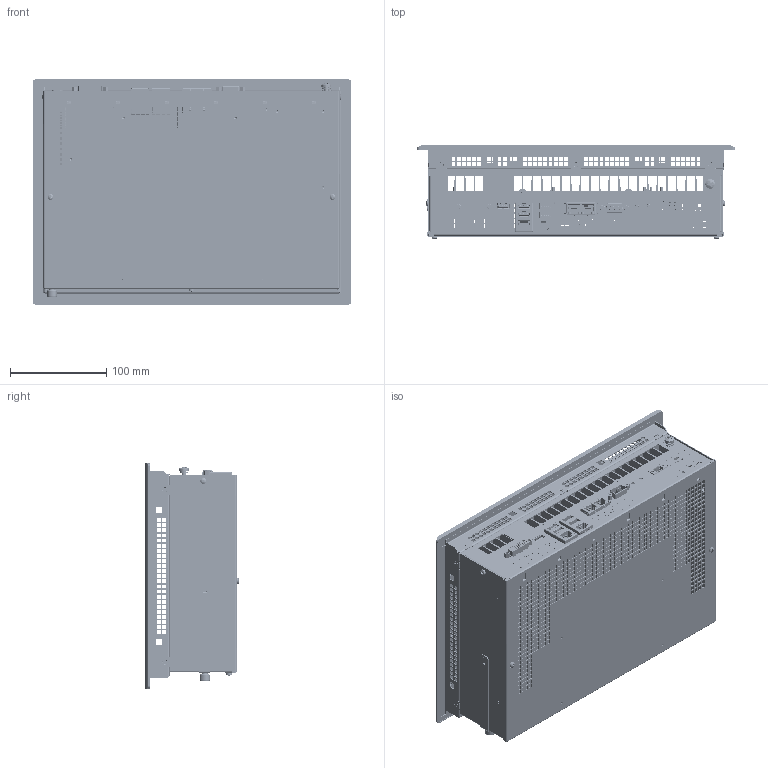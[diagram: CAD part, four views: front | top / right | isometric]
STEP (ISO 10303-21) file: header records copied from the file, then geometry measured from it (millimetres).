
FILE_DESCRIPTION (( 'STEP AP214' ), '1' );
FILE_NAME ('C6P34-Panel_121W_Res_S0.STEP', '2019-09-24T09:27:57', ( '' ), ( '' ), 'SwSTEP 2.0', 'SolidWorks 2018', '' );
FILE_SCHEMA (( 'AUTOMOTIVE_DESIGN' ));
Length unit declared in the file: millimetre
Products named in the file (140): 21509026; 21614000; 69111028; 21410052; 65720030; 21410046; 59702276; 66320015; 62920012; 23330039; 52912002; C6P34-Panel_121W_Res_S0; 66320016; 62920002; 52536147; 65720029; 58702102_Default<A macchina>; 57902481; 48000067; 56636638; 21409042; 58502116; piazzuola_de800_di370; 21410015; 21502089; 51524089; 7359_056; 21404036; 65720078; 66320001; 14300025; 59702276_Default<A macchina>; 21410056; 57936014; 7359_056_Depopolato; 7397_227_Depopolato; 62920009; 51702286_Default<A macchina>; 7397_227; 21405029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
Assembly tree (100 placements, depth 4):
  21614000
  69111028
  21410052
  21410046
  59702276
Bounding box: 331 x 97.99 x 234 mm (x, y, z)
Volume: 1069713.9 mm3; surface area: 1253572.1 mm2
Topology: 200 solids, 218 shells, 24731 faces, 69438 edges, 45502 vertices
Faces by surface type: plane 19057, cylinder 4396, bspline 634, cone 545, torus 79, sphere 20
Full cylindrical faces by diameter (mm): 0.3 x9, 0.434 x1, 0.6 x30, 0.65 x6, 0.7 x165, 0.8 x36, 0.85 x66, 0.9 x175, 0.95 x11, 1 x119, 1.1 x3, 1.2 x10, 1.32 x2, 1.35 x4, 1.4 x8, 1.5 x6, 1.6 x7, 1.7 x4, 1.8 x3, 1.9 x4, 1.95 x4, 2.05 x1, 2.3 x18, 2.4 x9, 2.5 x37, 2.6 x5, 2.8 x3, 2.874 x1, 3 x58, 3.15 x2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
Entity records: 733690 total; most frequent: CARTESIAN_POINT 154281, ORIENTED_EDGE 119294, DIRECTION 106184, EDGE_CURVE 60037, VECTOR 50362, LINE 50362, VERTEX_POINT 40050, AXIS2_PLACEMENT_3D 27911
